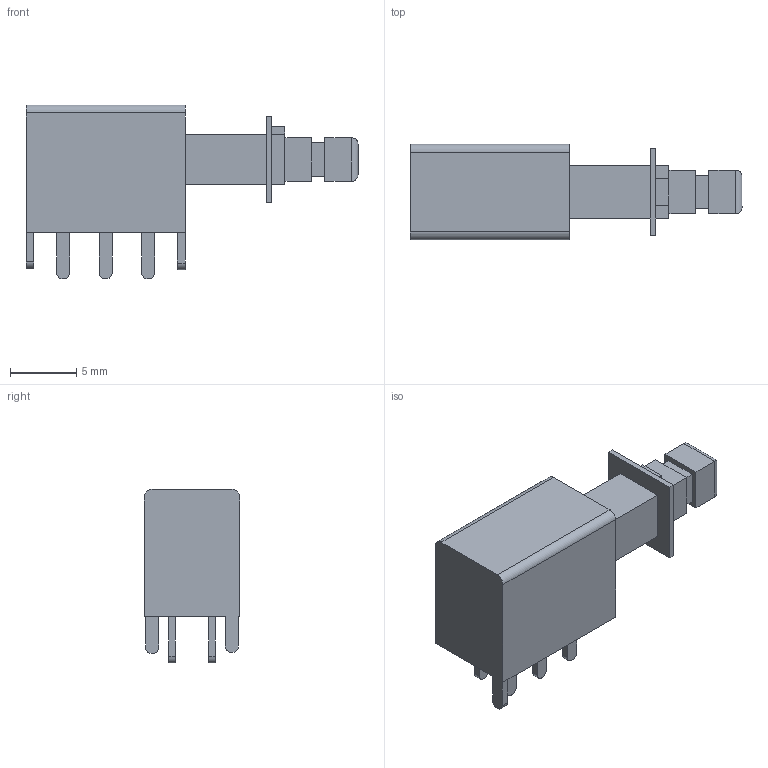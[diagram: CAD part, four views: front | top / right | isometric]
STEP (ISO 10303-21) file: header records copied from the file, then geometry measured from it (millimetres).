
FILE_DESCRIPTION (( 'STEP AP214' ), '1' );
FILE_NAME ('SPPJ223200.STEP', '2011-04-10T06:45:37', ( '' ), ( '' ), 'SwSTEP 2.0', 'SolidWorks 2007', '' );
FILE_SCHEMA (( 'AUTOMOTIVE_DESIGN' ));
Length unit declared in the file: millimetre
Products named in the file (1): SPPJ223200
Bounding box: 25 x 7.2 x 13.1 mm (x, y, z)
Volume: 1021.6 mm3; surface area: 864.2 mm2
Topology: 1 solids, 1 shells, 84 faces, 206 edges, 136 vertices
Faces by surface type: plane 70, cylinder 14
Entity records: 2967 total; most frequent: CARTESIAN_POINT 439, ORIENTED_EDGE 412, DIRECTION 392, EDGE_CURVE 206, VECTOR 182, LINE 182, VERTEX_POINT 136, AXIS2_PLACEMENT_3D 105
